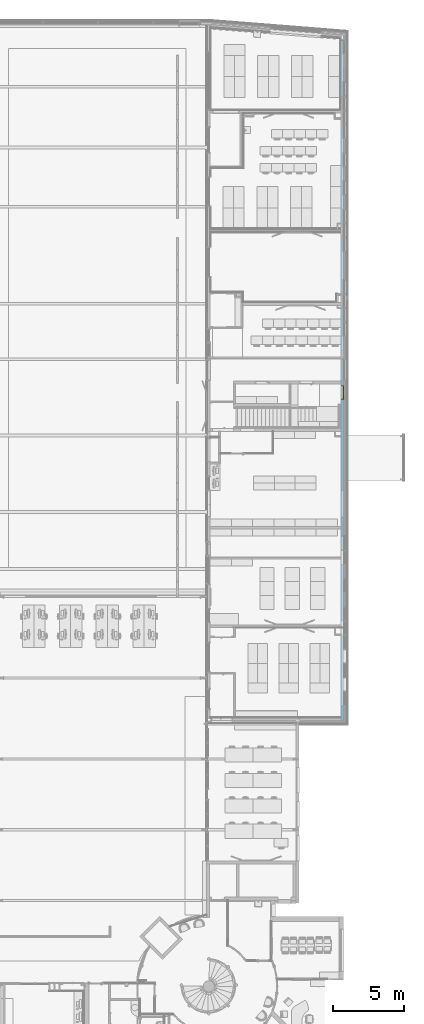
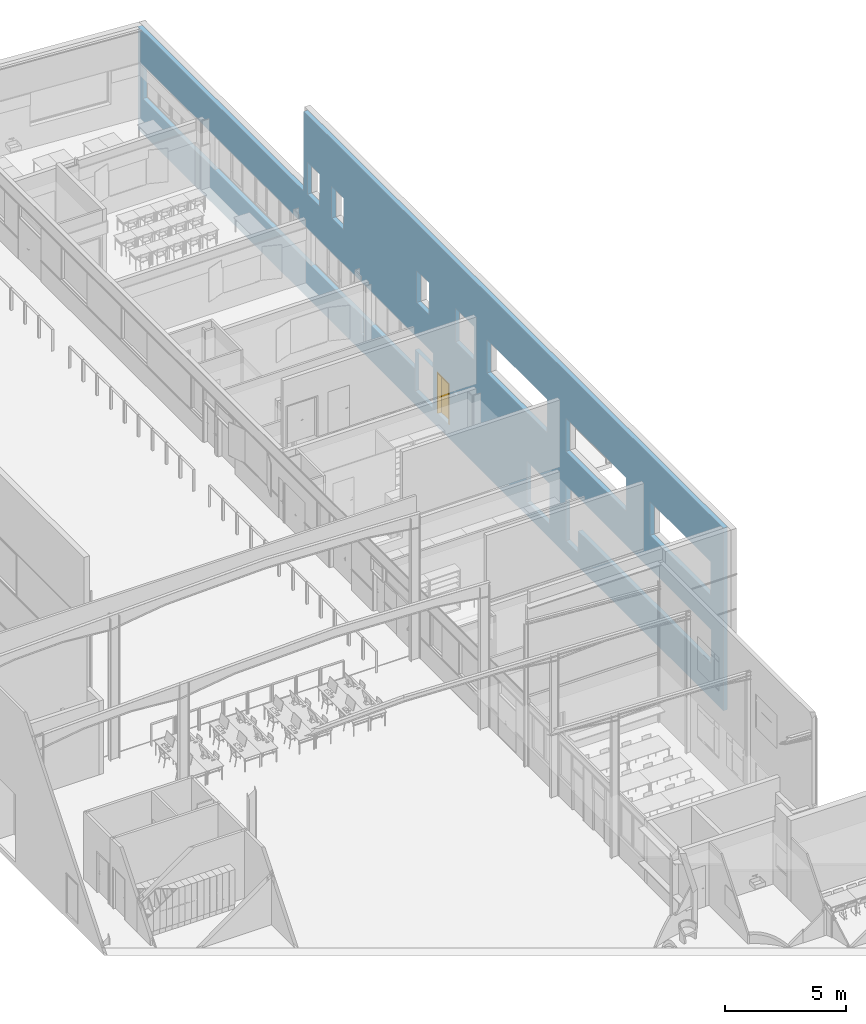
# One storey, part 100 of 137: 1 door, 4 openings, plus 1 element that does not belong to this part.
"""IFC2X3 building model written with IfcOpenShell, lengths in centimetres."""

from ifc_helpers import new_model, entity, si_unit, converted_unit, derived_unit, direction, frame, frame_2d, origin, place, context, subcontext, project, spatial, rectangle, extrude, faceted_brep, source, transform, mapped, material, material_list, type_object, type_shapes, element, fill, save


model = new_model("IFC2X3")

# Units and contexts
model_context = context("Model", 3, precision=0.001, world=origin(), true_north=direction((6.12303176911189e-17, 1.0)))
body_context = subcontext(model_context, "Body", "Model", "MODEL_VIEW")
ifc_project = project(units=[si_unit("LENGTHUNIT", "METRE", prefix="CENTI"), si_unit("AREAUNIT", "SQUARE_METRE"), si_unit("VOLUMEUNIT", "CUBIC_METRE"), converted_unit("PLANEANGLEUNIT", "DEGREE", entity("IfcRatioMeasure", 0.0174532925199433), si_unit("PLANEANGLEUNIT", "RADIAN"), dimensions=[0, 0, 0, 0, 0, 0, 0]), si_unit("MASSUNIT", "GRAM", prefix="KILO"), si_unit("TIMEUNIT", "SECOND"), si_unit("FREQUENCYUNIT", "HERTZ"), si_unit("THERMODYNAMICTEMPERATUREUNIT", "DEGREE_CELSIUS"), derived_unit("THERMALTRANSMITTANCEUNIT", [(si_unit("MASSUNIT", "GRAM", prefix="KILO"), 1), (si_unit("THERMODYNAMICTEMPERATUREUNIT", "KELVIN"), -1), (si_unit("TIMEUNIT", "SECOND"), -3)]), derived_unit("VOLUMETRICFLOWRATEUNIT", [(si_unit("LENGTHUNIT", "METRE"), 3), (si_unit("TIMEUNIT", "SECOND"), -1)]), si_unit("ELECTRICCURRENTUNIT", "AMPERE"), si_unit("ELECTRICVOLTAGEUNIT", "VOLT"), si_unit("POWERUNIT", "WATT"), si_unit("FORCEUNIT", "NEWTON", prefix="KILO"), si_unit("ILLUMINANCEUNIT", "LUX"), si_unit("LUMINOUSFLUXUNIT", "LUMEN"), si_unit("LUMINOUSINTENSITYUNIT", "CANDELA"), derived_unit("USERDEFINED", [(si_unit("MASSUNIT", "GRAM", prefix="KILO"), -1), (si_unit("LENGTHUNIT", "METRE"), -2), (si_unit("TIMEUNIT", "SECOND"), 3), (si_unit("LUMINOUSFLUXUNIT", "LUMEN"), 1)]), derived_unit("LINEARVELOCITYUNIT", [(si_unit("LENGTHUNIT", "METRE"), 1), (si_unit("TIMEUNIT", "SECOND"), -1)]), si_unit("PRESSUREUNIT", "PASCAL"), derived_unit("USERDEFINED", [(si_unit("LENGTHUNIT", "METRE"), -2), (si_unit("MASSUNIT", "GRAM", prefix="KILO"), 1), (si_unit("TIMEUNIT", "SECOND"), -2)])], contexts=[model_context])

# Site, building, storey
site_placement = place(None, frame((8.62739174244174, -249.285249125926, 0.0)))
site = spatial("IfcSite", under=ifc_project, at=site_placement, Name="Default", CompositionType="ELEMENT")
building_placement = place(site_placement, origin())
building = spatial("IfcBuilding", under=site, at=building_placement, CompositionType="ELEMENT")
storey_placement = place(building_placement, origin())
storey = spatial("IfcBuildingStorey", under=building, at=storey_placement, Name="RDC", CompositionType="ELEMENT", Elevation=-8.82465566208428e-11)

# Wall, openings, door
ifc_material_1 = material(Name="Béton, coulé sur place, gris")
wall_type = type_object("IfcWallType", Name="Mur de base:BET 21", PredefinedType="NOTDEFINED")
wall_placement = place(storey_placement, frame((3988.90482781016, 2634.98020806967, -70.0), z_axis=(0.0, 0.0, 1.0), x_axis=(0.0, 1.0, 0.0)))
wall = element("IfcWall", 1, at=wall_placement, inside=storey, type_object=wall_type, material=ifc_material_1, Name="Mur de base:BET 21", ObjectType="Mur de base:BET 21", context=body_context, shape_type="Brep", body=[
    faceted_brep([(4814.40916101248, -10.0, 350.0), (4814.40916101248, -10.0, 180.0), (2558.0, -10.0, 180.0), (2558.0, -10.0, 278.0), (2407.0, -10.0, 278.0), (2407.0, -10.0, 350.0), (2223.0, -10.0, 691.0), (2223.0, -10.0, 521.0), (2068.0, -10.0, 521.0), (2068.0, -10.0, 691.0), (2236.48822441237, -10.0, 273.988224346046), (2236.48822441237, -10.0, 253.988224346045), (2205.51572422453, -10.0, 253.988224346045), (2205.51572422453, -10.0, 273.988224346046), (2408.0, -10.0, 70.0), (2408.0, -10.0, 85.0), (2408.0, -10.0, 277.0), (2557.0, -10.0, 277.0), (2557.0, -10.0, 85.0), (2557.0, -10.0, 70.0), (2372.0, -10.0, 277.499999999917), (2372.0, -10.0, 85.0), (2372.0, -10.0, 70.0), (2272.0, -10.0, 70.0), (2272.0, -10.0, 85.0), (2272.0, -10.0, 277.499999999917), (1629.20498529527, -10.0, 277.0), (1629.20498529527, -10.0, 85.0), (1629.20498529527, -10.0, 70.0), (1440.20498529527, -10.0, 70.0), (1440.20498529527, -10.0, 85.0), (1440.20498529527, -10.0, 277.0), (1305.204985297, -10.0, 277.499999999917), (1305.204985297, -10.0, 85.0), (1305.204985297, -10.0, 70.0), (1205.204985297, -10.0, 70.0), (1205.204985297, -10.0, 85.0), (1205.204985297, -10.0, 180.0), (104.204985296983, -10.0, 180.0), (104.204985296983, -10.0, 350.0), (1304.20498529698, -10.0, 350.0), (1304.20498529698, -10.0, 277.499999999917), (1961.60249267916, -10.0, 691.0), (1961.60249267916, -10.0, 521.0), (1461.60249267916, -10.0, 521.0), (1461.60249267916, -10.0, 691.0), (1306.70498529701, -10.0, 691.0), (1306.70498529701, -10.0, 521.0), (806.704985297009, -10.0, 521.0), (806.704985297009, -10.0, 691.0), (606.704985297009, -10.0, 691.0), (606.704985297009, -10.0, 521.0), (106.704985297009, -10.0, 521.0), (106.704985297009, -10.0, 691.0), (3448.0117757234, -10.0, 686.011775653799), (3448.0117757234, -10.0, 525.011775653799), (3348.0117757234, -10.0, 525.011775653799), (3348.0117757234, -10.0, 686.011775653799), (3006.0, -10.0, 170.207427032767), (3006.0, -10.0, 89.8417534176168), (2975.0, -10.0, 89.8417534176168), (2975.0, -10.0, 170.207427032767), (2543.0, -10.0, 686.5117756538), (2543.0, -10.0, 525.511775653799), (2443.0, -10.0, 525.511775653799), (2443.0, -10.0, 686.5117756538), (3480.0, -10.0, 925.0), (3448.0, -10.0, 925.0), (32.0, -10.0, 925.0), (0.0, -10.0, 925.0), (0.0, -10.0, 0.0), (4853.30717049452, -10.0, 0.0), (4853.30717049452, -10.0, 521.0), (3507.0, -10.0, 521.0), (3480.0, -10.0, 521.0), (3248.0117757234, -10.0, 686.011775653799), (3248.0117757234, -10.0, 525.011775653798), (3148.0117757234, -10.0, 525.011775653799), (3148.0117757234, -10.0, 686.011775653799), (2408.0, 10.0, 277.0), (2408.0, 10.0, 70.0), (2557.0, 10.0, 70.0), (2557.0, 10.0, 277.0), (2372.0, 10.0, 70.0), (2372.0, 10.0, 277.499999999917), (2272.0, 10.0, 277.499999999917), (2272.0, 10.0, 70.0), (1629.20498529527, 10.0, 70.0), (1629.20498529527, 10.0, 277.0), (1440.20498529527, 10.0, 277.0), (1440.20498529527, 10.0, 70.0), (1305.204985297, 10.0, 70.0), (1305.204985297, 10.0, 277.499999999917), (1304.20498529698, 10.0, 277.499999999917), (1304.20498529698, 10.0, 350.0), (104.204985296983, 10.0, 350.0), (104.204985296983, 10.0, 180.0), (1205.204985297, 10.0, 180.0), (1205.204985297, 10.0, 70.0), (4814.40916101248, 10.0, 180.0), (4814.40916101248, 10.0, 350.0), (2407.0, 10.0, 350.0), (2407.0, 10.0, 278.0), (2558.0, 10.0, 278.0), (2558.0, 10.0, 180.0), (2223.0, 10.0, 521.0), (2223.0, 10.0, 691.0), (2068.0, 10.0, 691.0), (2068.0, 10.0, 521.0), (0.0, 10.0, 925.0), (20.0, 10.0, 925.0), (3460.0, 10.0, 925.0), (3480.0, 10.0, 925.0), (3480.0, 10.0, 521.0), (4834.82616616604, 10.0, 521.0), (4854.88859101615, 10.0, 521.0), (4854.88859101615, 10.0, 0.0), (4834.82616616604, 10.0, 0.0), (2960.0, 10.0, 0.0), (2940.0, 10.0, 0.0), (2403.0, 10.0, 0.0), (2383.0, 10.0, 0.0), (2068.0, 10.0, 0.0), (2048.0, 10.0, 0.0), (1375.20498529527, 10.0, 0.0), (1355.20498529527, 10.0, 0.0), (0.0, 10.0, 0.0), (2236.48822441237, 10.0, 253.988224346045), (2236.48822441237, 10.0, 273.988224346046), (2205.51572422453, 10.0, 273.988224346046), (2205.51572422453, 10.0, 253.988224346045), (1961.60249267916, 10.0, 521.0), (1961.60249267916, 10.0, 691.0), (1461.60249267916, 10.0, 691.0), (1461.60249267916, 10.0, 521.0), (1306.70498529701, 10.0, 521.0), (1306.70498529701, 10.0, 691.0), (806.704985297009, 10.0, 691.0), (806.704985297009, 10.0, 521.0), (606.704985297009, 10.0, 521.0), (606.704985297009, 10.0, 691.0), (106.704985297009, 10.0, 691.0), (106.704985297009, 10.0, 521.0), (3448.0117757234, 10.0, 525.011775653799), (3448.0117757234, 10.0, 686.011775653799), (3348.0117757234, 10.0, 686.011775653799), (3348.0117757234, 10.0, 525.011775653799), (3006.0, 10.0, 89.8417534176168), (3006.0, 10.0, 170.207427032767), (2975.0, 10.0, 170.207427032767), (2975.0, 10.0, 89.8417534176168), (2543.0, 10.0, 525.511775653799), (2543.0, 10.0, 686.5117756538), (2443.0, 10.0, 686.5117756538), (2443.0, 10.0, 525.511775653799), (3248.0117757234, 10.0, 525.011775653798), (3248.0117757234, 10.0, 686.011775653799), (3148.0117757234, 10.0, 686.011775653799), (3148.0117757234, 10.0, 525.011775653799)], [[[0, 1, 2, 3, 4, 5], [6, 7, 8, 9], [10, 11, 12, 13], [14, 15, 16, 17, 18, 19], [20, 21, 22, 23, 24, 25], [26, 27, 28, 29, 30, 31], [32, 33, 34, 35, 36, 37, 38, 39, 40, 41], [42, 43, 44, 45], [46, 47, 48, 49], [50, 51, 52, 53], [54, 55, 56, 57], [58, 59, 60, 61], [62, 63, 64, 65], [66, 67, 68, 69, 70, 71, 72, 73, 74], [75, 76, 77, 78]], [[79, 80, 81, 82], [83, 84, 85, 86], [87, 88, 89, 90], [91, 92, 93, 94, 95, 96, 97, 98], [99, 100, 101, 102, 103, 104], [105, 106, 107, 108], [109, 110, 111, 112, 113, 114, 115, 116, 117, 118, 119, 120, 121, 122, 123, 124, 125, 126], [127, 128, 129, 130], [131, 132, 133, 134], [135, 136, 137, 138], [139, 140, 141, 142], [143, 144, 145, 146], [147, 148, 149, 150], [151, 152, 153, 154], [155, 156, 157, 158]], [[14, 80, 79, 16, 15]], [[16, 79, 82, 17]], [[81, 19, 18, 17, 82]], [[80, 14, 19, 81]], [[83, 22, 21, 20, 84]], [[84, 20, 25, 85]], [[23, 86, 85, 25, 24]], [[22, 83, 86, 23]], [[87, 28, 27, 26, 88]], [[88, 26, 31, 89]], [[29, 90, 89, 31, 30]], [[28, 87, 90, 29]], [[35, 98, 97, 37, 36]], [[92, 32, 41, 93]], [[91, 34, 33, 32, 92]], [[98, 35, 34, 91]], [[69, 68, 67, 66, 112, 111, 110, 109]], [[70, 69, 109, 126]], [[74, 73, 72, 115, 114, 113]], [[66, 74, 113, 112]], [[99, 1, 0, 100]], [[100, 0, 5, 101]], [[101, 5, 4, 102]], [[102, 4, 3, 103]], [[40, 94, 93, 41]], [[94, 40, 39, 95]], [[95, 39, 38, 96]], [[96, 38, 37, 97]], [[103, 3, 2, 104]], [[1, 99, 104, 2]], [[105, 7, 6, 106]], [[106, 6, 9, 107]], [[107, 9, 8, 108]], [[7, 105, 108, 8]], [[11, 10, 128, 127]], [[12, 11, 127, 130]], [[13, 12, 130, 129]], [[10, 13, 129, 128]], [[71, 70, 126, 125, 124, 123, 122, 121, 120, 119, 118, 117, 116]], [[131, 43, 42, 132]], [[132, 42, 45, 133]], [[133, 45, 44, 134]], [[43, 131, 134, 44]], [[135, 47, 46, 136]], [[136, 46, 49, 137]], [[137, 49, 48, 138]], [[47, 135, 138, 48]], [[139, 51, 50, 140]], [[140, 50, 53, 141]], [[141, 53, 52, 142]], [[51, 139, 142, 52]], [[72, 71, 116, 115]], [[55, 54, 144, 143]], [[56, 55, 143, 146]], [[57, 56, 146, 145]], [[54, 57, 145, 144]], [[59, 58, 148, 147]], [[60, 59, 147, 150]], [[61, 60, 150, 149]], [[58, 61, 149, 148]], [[63, 62, 152, 151]], [[64, 63, 151, 154]], [[65, 64, 154, 153]], [[62, 65, 153, 152]], [[76, 75, 156, 155]], [[77, 76, 155, 158]], [[78, 77, 158, 157]], [[75, 78, 157, 156]]], outer=[[False, False, False, False, False, False, False, False, False, False, False, False, False, True, False], [False, False, False, False, False, False, True, False, False, False, False, False, False, False, False], [True], [True], [True], [True], [True], [True], [True], [True], [True], [True], [True], [True], [True], [True], [True], [True], [True], [True], [True], [True], [True], [True], [True], [True], [True], [True], [True], [True], [True], [True], [True], [True], [True], [True], [True], [True], [True], [True], [True], [True], [True], [True], [True], [True], [True], [True], [True], [True], [True], [True], [True], [True], [True], [True], [True], [True], [True], [True], [True], [True], [True], [True], [True], [True], [True], [True], [True], [True]]),
])
opening_1_placement = place(wall_placement, frame((2557.0, 10.0, 70.0)))
element("IfcOpeningElement", 2, at=opening_1_placement, cuts=wall, Name="Tierce(R)_bois_mu:143 x 204 cm:1", ObjectType="Opening", context=body_context, shape_type="SweptSolid", body=[
    extrude(rectangle(XDim=206.999999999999, YDim=149.0, at=frame_2d((103.499999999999, 74.4999999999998), x_axis=(1.0, 0.0))), frame((0.0, 0.0, 0.0), z_axis=(0.0, -1.0, 0.0), x_axis=(0.0, 0.0, 1.0)), (0.0, 0.0, 1.0), 20.0),
])
opening_2_placement = place(wall_placement, frame((2372.0, 10.0, 70.0)))
opening_2 = element("IfcOpeningElement", 3, at=opening_2_placement, cuts=wall, Name="Simple(R)_bois_mu:93 x 204 cm:1", ObjectType="Opening", context=body_context, shape_type="SweptSolid", body=[
    extrude(rectangle(XDim=207.499999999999, YDim=99.9999999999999, at=frame_2d((103.749999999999, 49.9999999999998), x_axis=(1.0, 0.0))), frame((0.0, 0.0, 0.0), z_axis=(0.0, -1.0, 0.0), x_axis=(0.0, 0.0, 1.0)), (0.0, 0.0, 1.0), 20.0),
])
opening_3_placement = place(wall_placement, frame((1629.20498529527, 10.0, 70.0)))
element("IfcOpeningElement", 4, at=opening_3_placement, cuts=wall, Name="Double(R)_bois_mu:183 x 204 cm:1", ObjectType="Opening", context=body_context, shape_type="SweptSolid", body=[
    extrude(rectangle(XDim=206.999999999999, YDim=189.0, at=frame_2d((103.499999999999, 94.5000000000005), x_axis=(1.0, 0.0))), frame((0.0, 0.0, 0.0), z_axis=(0.0, -1.0, 0.0), x_axis=(0.0, 0.0, 1.0)), (0.0, 0.0, 1.0), 20.0),
])
opening_4_placement = place(wall_placement, frame((1305.204985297, 10.0, 70.0)))
element("IfcOpeningElement", 5, at=opening_4_placement, cuts=wall, Name="Simple(R)_bois_mu:93 x 204 cm:1", ObjectType="Opening", context=body_context, shape_type="SweptSolid", body=[
    extrude(rectangle(XDim=207.499999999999, YDim=99.9999999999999, at=frame_2d((103.749999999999, 50.0), x_axis=(1.0, 0.0))), frame((0.0, 0.0, 0.0), z_axis=(0.0, -1.0, 0.0), x_axis=(0.0, 0.0, 1.0)), (0.0, 0.0, 1.0), 20.0),
])
ifc_material_2 = material(Name="Porte - Poignée")
ifc_material_3 = material(Name="Porte - Cadre")
ifc_material_4 = material(Name="Porte - Panneau")
ifc_material_list_1 = material_list([ifc_material_2, ifc_material_3, ifc_material_4])
ifc_material_list_2 = material_list([ifc_material_2, ifc_material_3, ifc_material_4])
door_style = type_object("IfcDoorStyle", Name="93 x 204 cm", ConstructionType="NOTDEFINED", OperationType="SINGLE_SWING_RIGHT", ParameterTakesPrecedence=False, Sizeable=False, material=ifc_material_list_2)
shared_shape = source(origin(), body_context, "Body", "Brep", [
    faceted_brep([(8.79747013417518, 3.69999999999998, 100.778044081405), (8.3999999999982, 3.69999999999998, 100.699999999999), (8.39999999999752, 3.69999999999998, 99.2999999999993), (8.79747013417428, 3.69999999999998, 99.2219559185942), (9.20252986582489, 3.69999999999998, 99.2219559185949), (9.60000000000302, 3.69999999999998, 99.3000000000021), (9.60000000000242, 3.69999999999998, 100.699999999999), (9.2025298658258, 3.69999999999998, 100.778044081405), (9.60000000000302, 5.94852045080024, 99.3000000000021), (9.60000000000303, 5.94852045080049, 100.699999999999), (9.20252986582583, 6.1131579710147, 100.778044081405), (10.5838906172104, 7.49451872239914, 100.778044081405), (10.4161093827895, 7.89957845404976, 100.778044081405), (8.79747013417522, 6.2809392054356, 100.778044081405), (19.5684749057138, 6.84673156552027, 100.778044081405), (19.8548953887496, 7.13315204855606, 100.778044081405), (19.0884689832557, 7.89957845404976, 100.778044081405), (18.9206877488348, 7.49451872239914, 100.778044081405), (8.39999999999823, 6.44557672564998, 100.699999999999), (8.3999999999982, 6.44557672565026, 99.2999999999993), (8.79747013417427, 6.28093920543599, 99.2219559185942), (10.4161093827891, 7.8995784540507, 99.2219559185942), (10.58389061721, 7.49451872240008, 99.2219559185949), (9.20252986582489, 6.11315797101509, 99.2219559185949), (19.8548953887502, 7.13315204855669, 99.2219559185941), (19.5684749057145, 6.84673156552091, 99.2219559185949), (18.9206877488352, 7.49451872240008, 99.2219559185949), (19.088468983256, 7.8995784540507, 99.2219559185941), (10.7485281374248, 7.09704858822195, 99.3000000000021), (10.748528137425, 7.09704858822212, 100.699999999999), (10.2514718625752, 8.29704858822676, 100.699999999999), (10.2514718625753, 8.29704858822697, 99.2999999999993), (14.7522904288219, 7.09704858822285, 99.3000000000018), (18.7560502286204, 7.09704858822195, 99.3000000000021), (18.7560502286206, 7.09704858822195, 100.699999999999), (14.7522891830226, 7.09704858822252, 100.699999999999), (14.7522891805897, 7.71249275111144, 100.787811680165), (19.25310650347, 8.29704858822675, 100.699999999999), (15.2600577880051, 8.29704858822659, 100.699999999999), (19.2531065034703, 8.29704858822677, 99.2999999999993), (14.2445206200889, 8.29704858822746, 99.2999999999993), (14.7522892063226, 7.71249274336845, 99.2121883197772), (19.2874210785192, 6.56567773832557, 99.3000000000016), (20.1359492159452, 7.41420587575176, 99.2999999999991), (20.135949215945, 7.4142058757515, 100.699999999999), (19.287421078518, 6.5656777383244, 100.699999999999)], [[[0, 1, 2, 3, 4, 5, 6, 7]], [[6, 5, 8, 9]], [[9, 10, 7, 6]], [[10, 11, 12, 13, 0, 7]], [[14, 15, 16, 17]], [[13, 18, 1, 0]], [[2, 1, 18, 19]], [[19, 20, 3, 2]], [[20, 21, 22, 23, 4, 3]], [[24, 25, 26, 27]], [[23, 8, 5, 4]], [[9, 8, 28, 29]], [[29, 11, 10, 9]], [[12, 30, 18, 13]], [[19, 18, 30, 31]], [[31, 21, 20, 19]], [[22, 28, 8, 23]], [[29, 28, 32, 33, 34, 35]], [[11, 35, 36]], [[16, 37, 38]], [[30, 12, 38]], [[38, 12, 36]], [[36, 35, 17]], [[17, 16, 36]], [[35, 11, 29]], [[34, 17, 35]], [[11, 36, 12]], [[38, 36, 16]], [[31, 30, 38, 37, 39, 40]], [[40, 41, 21]], [[41, 40, 27]], [[21, 31, 40]], [[39, 27, 40]], [[41, 32, 22]], [[22, 21, 41]], [[26, 32, 41]], [[28, 22, 32]], [[32, 26, 33]], [[26, 41, 27]], [[42, 25, 24, 43, 44, 15, 14, 45]], [[34, 33, 42, 45]], [[45, 14, 17, 34]], [[15, 44, 37, 16]], [[39, 37, 44, 43]], [[43, 24, 27, 39]], [[25, 42, 33, 26]]]),
    faceted_brep([(8.79747013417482, -1.30000000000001, 100.778044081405), (9.20252986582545, -1.30000000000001, 100.778044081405), (9.6000000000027, -1.30000000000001, 100.699999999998), (9.60000000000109, -1.30000000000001, 99.3000000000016), (9.20252986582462, -1.30000000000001, 99.2219559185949), (8.79747013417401, -1.30000000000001, 99.2219559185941), (8.39999999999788, -1.30000000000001, 99.2999999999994), (8.39999999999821, -1.30000000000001, 100.699999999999), (8.39999999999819, -4.06509507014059, 100.699999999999), (8.7974701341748, -3.90045754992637, 100.778044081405), (10.402358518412, -5.50534593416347, 100.778044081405), (10.5701397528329, -5.10028620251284, 100.778044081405), (9.20252986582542, -3.73267631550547, 100.778044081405), (19.852181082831, -4.73891952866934, 100.778044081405), (19.5657605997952, -4.4524990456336, 100.778044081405), (18.9179734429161, -5.10028620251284, 100.778044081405), (19.085754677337, -5.50534593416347, 100.778044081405), (9.60000000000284, -3.56803879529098, 100.699999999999), (9.6000000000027, -3.56803879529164, 99.3000000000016), (9.20252986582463, -3.7326763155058, 99.2219559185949), (10.5701397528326, -5.10028620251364, 99.2219559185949), (10.4023585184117, -5.50534593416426, 99.2219559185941), (8.79747013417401, -3.9004575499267, 99.2219559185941), (19.5657605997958, -4.45249904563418, 99.2219559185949), (19.8521810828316, -4.73891952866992, 99.2219559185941), (19.0857546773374, -5.50534593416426, 99.2219559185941), (18.9179734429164, -5.10028620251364, 99.2219559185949), (8.39999999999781, -4.06509507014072, 99.2999999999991), (10.2377209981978, -5.90281606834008, 100.699999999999), (10.7347772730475, -4.70281606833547, 100.699999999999), (10.7347772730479, -4.70281606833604, 99.3000000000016), (10.2377209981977, -5.90281606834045, 99.2999999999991), (14.2307697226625, -5.90281606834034, 100.699999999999), (14.7440566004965, -5.31828027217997, 100.787811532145), (19.2503921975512, -5.90281606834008, 100.699999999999), (14.7440565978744, -4.70281606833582, 100.699999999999), (18.7533359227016, -4.70281606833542, 100.699999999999), (18.7533359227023, -4.70281606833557, 99.3000000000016), (14.7440563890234, -4.70281606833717, 99.3000000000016), (14.744056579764, -5.31828027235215, 99.2121884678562), (19.2503921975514, -5.90281606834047, 99.2999999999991), (15.2573433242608, -5.90281606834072, 99.2999999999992), (19.2847067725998, -4.1714452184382, 100.699999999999), (20.1332349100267, -5.01997335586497, 100.699999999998), (20.1332349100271, -5.01997335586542, 99.2999999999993), (19.2847067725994, -4.17144521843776, 99.3000000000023)], [[[0, 1, 2, 3, 4, 5, 6, 7]], [[8, 9, 0, 7]], [[9, 10, 11, 12, 1, 0]], [[13, 14, 15, 16]], [[12, 17, 2, 1]], [[3, 2, 17, 18]], [[18, 19, 4, 3]], [[19, 20, 21, 22, 5, 4]], [[23, 24, 25, 26]], [[22, 27, 6, 5]], [[7, 6, 27, 8]], [[28, 10, 9, 8]], [[11, 29, 17, 12]], [[18, 17, 29, 30]], [[30, 20, 19, 18]], [[21, 31, 27, 22]], [[8, 27, 31, 28]], [[32, 33, 10]], [[33, 32, 16]], [[10, 28, 32]], [[34, 16, 32]], [[33, 35, 11]], [[11, 10, 33]], [[15, 35, 33]], [[29, 11, 35]], [[35, 15, 36]], [[15, 33, 16]], [[30, 29, 35, 36, 37, 38]], [[20, 38, 39]], [[25, 40, 41]], [[31, 21, 41]], [[41, 21, 39]], [[39, 38, 26]], [[26, 25, 39]], [[38, 20, 30]], [[37, 26, 38]], [[20, 39, 21]], [[41, 39, 25]], [[28, 31, 41, 40, 34, 32]], [[42, 14, 13, 43, 44, 24, 23, 45]], [[43, 13, 16, 34]], [[14, 42, 36, 15]], [[37, 36, 42, 45]], [[45, 23, 26, 37]], [[24, 44, 40, 25]], [[34, 40, 44, 43]]]),
    faceted_brep([(10.03527618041, 3.19999999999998, 86.6003983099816), (11.0, 3.19999999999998, 87.0), (11.0, 3.19999999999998, 108.0), (10.03527618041, 3.19999999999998, 108.399601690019), (9.0, 3.19999999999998, 108.535898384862), (7.96472381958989, 3.19999999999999, 108.399601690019), (7.0, 3.19999999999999, 108.0), (7.0, 3.19999999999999, 87.0), (7.96472381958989, 3.19999999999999, 86.6003983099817), (9.0, 3.19999999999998, 86.4641016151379), (10.03527618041, 3.69999999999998, 108.399601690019), (11.0, 3.69999999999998, 108.0), (11.0, 3.69999999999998, 87.0), (10.03527618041, 3.69999999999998, 86.6003983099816), (9.0, 3.69999999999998, 86.4641016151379), (7.96472381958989, 3.69999999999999, 86.6003983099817), (7.0, 3.69999999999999, 87.0), (7.0, 3.69999999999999, 108.0), (7.96472381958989, 3.69999999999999, 108.399601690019), (9.0, 3.69999999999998, 108.535898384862)], [[[0, 1, 2, 3, 4, 5, 6, 7, 8, 9]], [[10, 11, 12, 13, 14, 15, 16, 17, 18, 19]], [[11, 10, 3, 2]], [[3, 10, 19, 4]], [[19, 18, 5, 4]], [[18, 17, 6, 5]], [[7, 6, 17, 16]], [[16, 15, 8, 7]], [[8, 15, 14, 9]], [[14, 13, 0, 9]], [[13, 12, 1, 0]], [[2, 1, 12, 11]]]),
    faceted_brep([(10.03527618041, -1.30000000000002, 86.6003983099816), (11.0, -1.30000000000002, 87.0), (11.0, -1.30000000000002, 108.0), (10.03527618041, -1.30000000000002, 108.399601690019), (9.0, -1.30000000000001, 108.535898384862), (7.9647238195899, -1.30000000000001, 108.399601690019), (7.0, -1.30000000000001, 108.0), (7.0, -1.30000000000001, 87.0), (7.96472381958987, -1.30000000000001, 86.6003983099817), (9.0, -1.30000000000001, 86.4641016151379), (10.03527618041, -0.800000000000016, 108.399601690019), (11.0, -0.800000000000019, 108.0), (11.0, -0.800000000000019, 87.0), (10.03527618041, -0.800000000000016, 86.6003983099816), (9.0, -0.800000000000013, 86.4641016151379), (7.96472381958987, -0.800000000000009, 86.6003983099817), (7.0, -0.800000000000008, 87.0), (7.0, -0.800000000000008, 108.0), (7.9647238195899, -0.800000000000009, 108.399601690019), (9.0, -0.800000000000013, 108.535898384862)], [[[0, 1, 2, 3, 4, 5, 6, 7, 8, 9]], [[10, 11, 12, 13, 14, 15, 16, 17, 18, 19]], [[16, 15, 8, 7]], [[8, 15, 14, 9]], [[14, 13, 0, 9]], [[13, 12, 1, 0]], [[2, 1, 12, 11]], [[11, 10, 3, 2]], [[3, 10, 19, 4]], [[19, 18, 5, 4]], [[18, 17, 6, 5]], [[7, 6, 17, 16]]]),
    faceted_brep([(0.0, 0.0, 0.0), (0.0, 20.0, 0.0), (-1.0, 20.0, 0.0), (-1.0, 20.8000000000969, 0.0), (4.49999999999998, 20.8000000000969, 0.0), (4.49999999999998, 3.2, 0.0), (3.49999999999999, 3.2, 0.0), (3.49999999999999, -0.799999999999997, 0.0), (-1.0, -0.799999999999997, 0.0), (-1.0, 0.0, 0.0), (0.0, 0.0, 207.499999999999), (0.0, 20.0, 207.499999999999), (100.0, 20.0, 207.499999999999), (100.0, 20.0, 0.0), (101.0, 20.0, 0.0), (101.0, 20.0, 208.499999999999), (-1.0, 20.0, 208.499999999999), (-1.0, 20.8000000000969, 208.499999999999), (101.0, 20.8000000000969, 208.499999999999), (101.0, 20.8000000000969, 0.0), (95.5, 20.8000000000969, 0.0), (95.5, 20.8000000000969, 203.0), (4.49999999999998, 20.8000000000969, 203.0), (4.49999999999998, 3.2, 203.0), (95.5, 3.2, 203.0), (95.5, 3.2, 0.0), (96.5, 3.2, 0.0), (96.5, 3.2, 204.0), (3.49999999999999, 3.2, 204.0), (3.49999999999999, -0.799999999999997, 204.0), (96.5, -0.799999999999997, 204.0), (96.5, -0.799999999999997, 0.0), (101.0, -0.799999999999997, 0.0), (101.0, -0.799999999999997, 208.499999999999), (-1.0, -0.799999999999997, 208.499999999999), (-1.0, 0.0, 208.499999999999), (101.0, 0.0, 208.499999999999), (101.0, 0.0, 0.0), (100.0, 0.0, 0.0), (100.0, 0.0, 207.499999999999)], [[[0, 1, 2, 3, 4, 5, 6, 7, 8, 9]], [[1, 0, 10, 11]], [[2, 1, 11, 12, 13, 14, 15, 16]], [[3, 2, 16, 17]], [[4, 3, 17, 18, 19, 20, 21, 22]], [[5, 4, 22, 23]], [[6, 5, 23, 24, 25, 26, 27, 28]], [[7, 6, 28, 29]], [[8, 7, 29, 30, 31, 32, 33, 34]], [[9, 8, 34, 35]], [[0, 9, 35, 36, 37, 38, 39, 10]], [[12, 39, 38, 13]], [[38, 37, 32, 31, 26, 25, 20, 19, 14, 13]], [[18, 15, 14, 19]], [[24, 21, 20, 25]], [[30, 27, 26, 31]], [[36, 33, 32, 37]], [[11, 10, 39, 12]], [[17, 16, 15, 18]], [[23, 22, 21, 24]], [[29, 28, 27, 30]], [[35, 34, 33, 36]]]),
    faceted_brep([(3.49999999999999, -0.799999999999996, 204.0), (3.49999999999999, -0.799999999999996, 0.0), (96.5, -0.799999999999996, 0.0), (96.5, -0.799999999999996, 204.0), (3.49999999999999, 3.2, 204.0), (96.5, 3.2, 204.0), (96.5, 3.2, 0.0), (3.49999999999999, 3.2, 0.0)], [[[0, 1, 2, 3]], [[4, 5, 6, 7]], [[1, 0, 4, 7]], [[2, 1, 7, 6]], [[3, 2, 6, 5]], [[0, 3, 5, 4]]]),
])
type_shapes(door_style, [shared_shape])
door_placement = place(opening_2_placement, frame((-100.0, -20.0, 0.0)))
door = element("IfcDoor", 6, at=door_placement, inside=storey, type_object=door_style, material=ifc_material_list_1, Name="Simple(R)_bois_mu:93 x 204 cm", ObjectType="93 x 204 cm", OverallHeight=207.499999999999, OverallWidth=99.9999999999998, context=body_context, shape_type="MappedRepresentation", body=[
    mapped(shared_shape, transform((0.0, 0.0, 0.0), scale=1.0)),
])
fill(opening_2, door)

save(model, "model.ifc")
